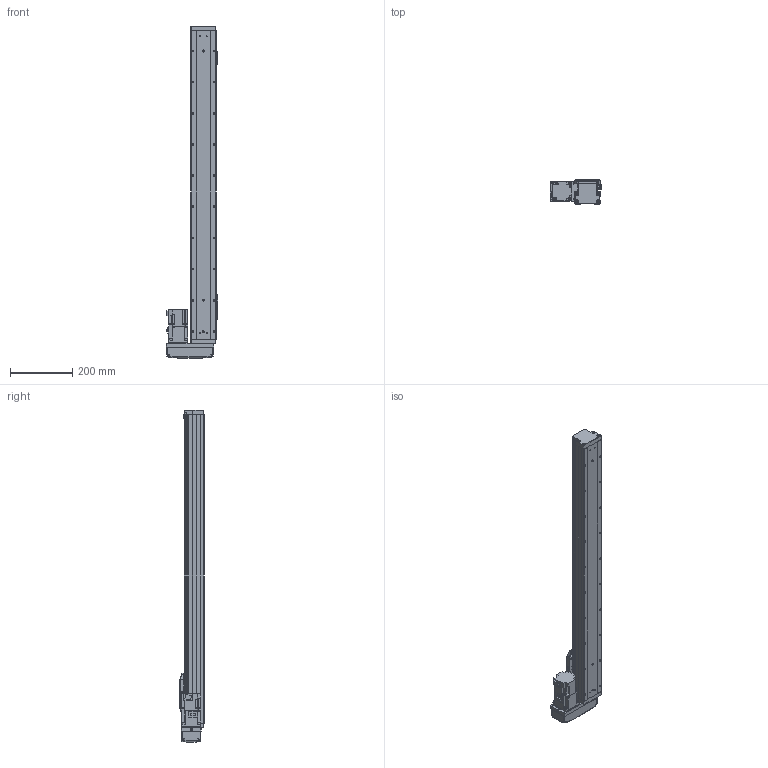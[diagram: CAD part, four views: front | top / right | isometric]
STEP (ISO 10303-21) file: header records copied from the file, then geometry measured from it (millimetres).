
FILE_DESCRIPTION (( 'STEP AP203' ), '1' );
FILE_NAME ('16.STEP', '2021-01-04T06:08:48', ( '' ), ( '' ), 'SwSTEP 2.0', 'SolidWorks 2016', '' );
FILE_SCHEMA (( 'CONFIG_CONTROL_DESIGN' ));
Length unit declared in the file: millimetre
Products named in the file (10): CTH8-BL-02; CTH8-BL-05; CTH8-BL-01; CTH8-BL-T20; 16; CTH8-BL-菁釱; PM-Y45; CTH8-BL-HZ; CTH8-BL-03; CTH8-BL-07
Assembly tree (14 placements, depth 2):
  16
    CTH8-BL-菁釱
    CTH8-BL-01
    CTH8-BL-02
    CTH8-BL-03
    CTH8-BL-05  x2
    CTH8-BL-07  x3
    CTH8-BL-HZ
    CTH8-BL-T20
    PM-Y45  x3
Bounding box: 165.5 x 78 x 1065 mm (x, y, z)
Volume: 4637140.3 mm3; surface area: 688321.4 mm2
Topology: 28 solids, 28 shells, 1747 faces, 4683 edges, 2947 vertices
Faces by surface type: plane 821, cylinder 686, cone 148, bspline 66, torus 22, sphere 4
Entity records: 55053 total; most frequent: CARTESIAN_POINT 16376, ORIENTED_EDGE 8034, DIRECTION 7471, EDGE_CURVE 4017, AXIS2_PLACEMENT_3D 2574, VERTEX_POINT 2547, VECTOR 2323, LINE 2323
